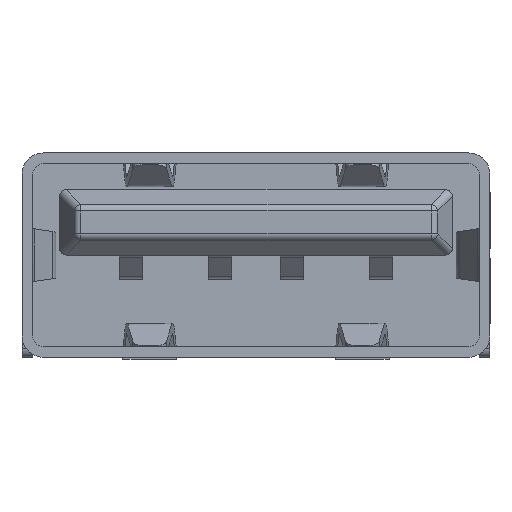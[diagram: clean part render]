
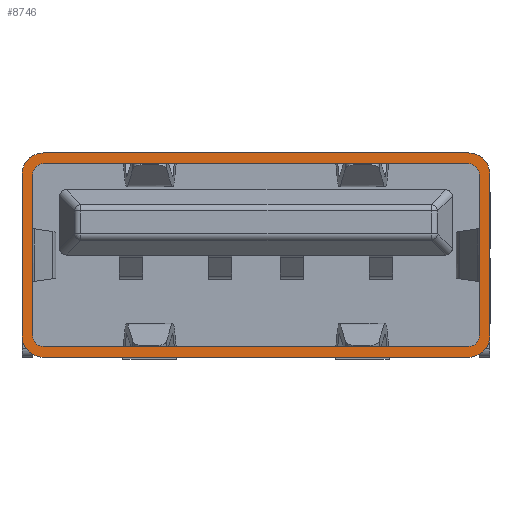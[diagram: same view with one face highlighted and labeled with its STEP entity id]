
A CAD part, front view. The second image highlights one B-rep face of the part: STEP entity #8746.
In plain terms, the highlighted planar face has unit normal (0, -1, 0).
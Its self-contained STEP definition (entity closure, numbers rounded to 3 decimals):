
#178 = CARTESIAN_POINT ( 'NONE',  ( -5.95, -14., 2.56 ) ) ;
#256 = AXIS2_PLACEMENT_3D ( 'NONE', #1958, #4878, #7438 ) ;
#524 = CARTESIAN_POINT ( 'NONE',  ( -6.55, -14., -2.26 ) ) ;
#1079 = VERTEX_POINT ( 'NONE', #21719 ) ;
#1958 = CARTESIAN_POINT ( 'NONE',  ( 5.95, -14., 2.26 ) ) ;
#2246 = CARTESIAN_POINT ( 'NONE',  ( -5.95, -14., 2.86 ) ) ;
#2357 = VECTOR ( 'NONE', #30650, 1000. ) ;
#2495 = CARTESIAN_POINT ( 'NONE',  ( 5.95, -14., -2.26 ) ) ;
#3346 = CIRCLE ( 'NONE', #22526, 0.6 ) ;
#3502 = ORIENTED_EDGE ( 'NONE', *, *, #20817, .F. ) ;
#3513 = DIRECTION ( 'NONE',  ( 0., 0., -1. ) ) ;
#4537 = VECTOR ( 'NONE', #19632, 1000. ) ;
#4565 = EDGE_CURVE ( 'NONE', #1079, #11951, #27170, .T. ) ;
#4619 = ORIENTED_EDGE ( 'NONE', *, *, #8394, .F. ) ;
#4878 = DIRECTION ( 'NONE',  ( 0., 1., 0. ) ) ;
#4960 = ORIENTED_EDGE ( 'NONE', *, *, #24312, .F. ) ;
#5975 = CARTESIAN_POINT ( 'NONE',  ( -5.95, -14., 2.26 ) ) ;
#6005 = AXIS2_PLACEMENT_3D ( 'NONE', #14067, #28450, #3513 ) ;
#6700 = CARTESIAN_POINT ( 'NONE',  ( 6.55, -14., 2.26 ) ) ;
#6813 = VERTEX_POINT ( 'NONE', #7803 ) ;
#7229 = VERTEX_POINT ( 'NONE', #34223 ) ;
#7438 = DIRECTION ( 'NONE',  ( 0., 0., 1. ) ) ;
#7775 = DIRECTION ( 'NONE',  ( 0., 1., 0. ) ) ;
#7803 = CARTESIAN_POINT ( 'NONE',  ( 6.55, -14., -2.26 ) ) ;
#7867 = CARTESIAN_POINT ( 'NONE',  ( -6.25, -14., 2.26 ) ) ;
#7989 = CARTESIAN_POINT ( 'NONE',  ( 5.95, -14., -2.26 ) ) ;
#8265 = CARTESIAN_POINT ( 'NONE',  ( 5.95, -14., 2.86 ) ) ;
#8394 = EDGE_CURVE ( 'NONE', #6813, #24839, #24276, .T. ) ;
#8464 = CARTESIAN_POINT ( 'NONE',  ( -5.95, -14., -2.56 ) ) ;
#8486 = AXIS2_PLACEMENT_3D ( 'NONE', #32669, #7775, #29968 ) ;
#8665 = CARTESIAN_POINT ( 'NONE',  ( 5.95, -14., 2.56 ) ) ;
#8746 = ADVANCED_FACE ( 'NONE', ( #25089, #27803 ), #30720, .T. ) ;
#9022 = VERTEX_POINT ( 'NONE', #8665 ) ;
#9064 = VECTOR ( 'NONE', #29714, 1000. ) ;
#9146 = ORIENTED_EDGE ( 'NONE', *, *, #13232, .T. ) ;
#9739 = VERTEX_POINT ( 'NONE', #33927 ) ;
#10237 = LINE ( 'NONE', #27020, #9064 ) ;
#10404 = AXIS2_PLACEMENT_3D ( 'NONE', #14336, #25488, #28916 ) ;
#10625 = CARTESIAN_POINT ( 'NONE',  ( 6.25, -14., -2.26 ) ) ;
#10751 = ORIENTED_EDGE ( 'NONE', *, *, #26662, .T. ) ;
#10944 = VERTEX_POINT ( 'NONE', #20850 ) ;
#11297 = LINE ( 'NONE', #178, #4537 ) ;
#11812 = VECTOR ( 'NONE', #18524, 1000. ) ;
#11951 = VERTEX_POINT ( 'NONE', #12962 ) ;
#12139 = LINE ( 'NONE', #6700, #23167 ) ;
#12714 = AXIS2_PLACEMENT_3D ( 'NONE', #18555, #32564, #29682 ) ;
#12897 = EDGE_CURVE ( 'NONE', #13879, #16495, #22956, .T. ) ;
#12962 = CARTESIAN_POINT ( 'NONE',  ( -6.25, -14., 2.26 ) ) ;
#12966 = EDGE_CURVE ( 'NONE', #9739, #1079, #33034, .T. ) ;
#12974 = ORIENTED_EDGE ( 'NONE', *, *, #28377, .T. ) ;
#12984 = ORIENTED_EDGE ( 'NONE', *, *, #4565, .T. ) ;
#13008 = LINE ( 'NONE', #13367, #34151 ) ;
#13232 = EDGE_CURVE ( 'NONE', #34044, #7229, #32474, .T. ) ;
#13367 = CARTESIAN_POINT ( 'NONE',  ( -5.95, -14., -2.86 ) ) ;
#13879 = VERTEX_POINT ( 'NONE', #524 ) ;
#14067 = CARTESIAN_POINT ( 'NONE',  ( -5.95, -14., 2.26 ) ) ;
#14336 = CARTESIAN_POINT ( 'NONE',  ( 5.95, -14., -2.26 ) ) ;
#14707 = EDGE_CURVE ( 'NONE', #7229, #9739, #35541, .T. ) ;
#15480 = DIRECTION ( 'NONE',  ( 0., 0., -1. ) ) ;
#15498 = AXIS2_PLACEMENT_3D ( 'NONE', #7989, #27478, #16507 ) ;
#16495 = VERTEX_POINT ( 'NONE', #32831 ) ;
#16507 = DIRECTION ( 'NONE',  ( 0., 0., -1. ) ) ;
#17031 = DIRECTION ( 'NONE',  ( 0., 1., 0. ) ) ;
#17848 = CARTESIAN_POINT ( 'NONE',  ( 6.25, -14., 2.26 ) ) ;
#18348 = LINE ( 'NONE', #29469, #11812 ) ;
#18524 = DIRECTION ( 'NONE',  ( 0., 0., -1. ) ) ;
#18555 = CARTESIAN_POINT ( 'NONE',  ( -5.95, -14., -2.26 ) ) ;
#18839 = VERTEX_POINT ( 'NONE', #21185 ) ;
#19033 = ORIENTED_EDGE ( 'NONE', *, *, #23575, .F. ) ;
#19061 = EDGE_CURVE ( 'NONE', #16495, #35067, #35003, .T. ) ;
#19205 = ORIENTED_EDGE ( 'NONE', *, *, #14707, .T. ) ;
#19215 = DIRECTION ( 'NONE',  ( 0., 0., -1. ) ) ;
#19219 = VECTOR ( 'NONE', #33114, 1000. ) ;
#19396 = DIRECTION ( 'NONE',  ( 0., -1., 0. ) ) ;
#19632 = DIRECTION ( 'NONE',  ( 1., 0., 0. ) ) ;
#20642 = VERTEX_POINT ( 'NONE', #17848 ) ;
#20754 = DIRECTION ( 'NONE',  ( 0., 1., 0. ) ) ;
#20817 = EDGE_CURVE ( 'NONE', #35067, #29586, #10237, .T. ) ;
#20850 = CARTESIAN_POINT ( 'NONE',  ( -5.95, -14., 2.56 ) ) ;
#20872 = ORIENTED_EDGE ( 'NONE', *, *, #12897, .F. ) ;
#21185 = CARTESIAN_POINT ( 'NONE',  ( -5.95, -14., -2.86 ) ) ;
#21719 = CARTESIAN_POINT ( 'NONE',  ( -6.25, -14., -2.26 ) ) ;
#21750 = CIRCLE ( 'NONE', #256, 0.3 ) ;
#22526 = AXIS2_PLACEMENT_3D ( 'NONE', #27913, #20754, #15480 ) ;
#22956 = LINE ( 'NONE', #23136, #32454 ) ;
#23136 = CARTESIAN_POINT ( 'NONE',  ( -6.55, -14., 2.26 ) ) ;
#23167 = VECTOR ( 'NONE', #26017, 1000. ) ;
#23361 = CIRCLE ( 'NONE', #28587, 0.3 ) ;
#23575 = EDGE_CURVE ( 'NONE', #24839, #18839, #13008, .T. ) ;
#24177 = CIRCLE ( 'NONE', #8486, 0.6 ) ;
#24276 = CIRCLE ( 'NONE', #15498, 0.6 ) ;
#24312 = EDGE_CURVE ( 'NONE', #18839, #13879, #3346, .T. ) ;
#24642 = EDGE_CURVE ( 'NONE', #10944, #9022, #11297, .T. ) ;
#24839 = VERTEX_POINT ( 'NONE', #32373 ) ;
#25089 = FACE_BOUND ( 'NONE', #33606, .T. ) ;
#25131 = EDGE_CURVE ( 'NONE', #32985, #6813, #12139, .T. ) ;
#25488 = DIRECTION ( 'NONE',  ( 0., 1., 0. ) ) ;
#25857 = EDGE_CURVE ( 'NONE', #29586, #32985, #24177, .T. ) ;
#26017 = DIRECTION ( 'NONE',  ( 0., 0., -1. ) ) ;
#26662 = EDGE_CURVE ( 'NONE', #11951, #10944, #23361, .T. ) ;
#27020 = CARTESIAN_POINT ( 'NONE',  ( -5.95, -14., 2.86 ) ) ;
#27067 = ORIENTED_EDGE ( 'NONE', *, *, #27339, .T. ) ;
#27170 = LINE ( 'NONE', #7867, #19219 ) ;
#27339 = EDGE_CURVE ( 'NONE', #20642, #34044, #18348, .T. ) ;
#27478 = DIRECTION ( 'NONE',  ( 0., 1., 0. ) ) ;
#27803 = FACE_OUTER_BOUND ( 'NONE', #30447, .T. ) ;
#27913 = CARTESIAN_POINT ( 'NONE',  ( -5.95, -14., -2.26 ) ) ;
#28166 = DIRECTION ( 'NONE',  ( 0., 0., -1. ) ) ;
#28377 = EDGE_CURVE ( 'NONE', #9022, #20642, #21750, .T. ) ;
#28450 = DIRECTION ( 'NONE',  ( 0., 1., 0. ) ) ;
#28587 = AXIS2_PLACEMENT_3D ( 'NONE', #5975, #17031, #28166 ) ;
#28916 = DIRECTION ( 'NONE',  ( 0., 0., -1. ) ) ;
#29026 = ORIENTED_EDGE ( 'NONE', *, *, #25131, .F. ) ;
#29389 = ORIENTED_EDGE ( 'NONE', *, *, #24642, .T. ) ;
#29469 = CARTESIAN_POINT ( 'NONE',  ( 6.25, -14., 2.26 ) ) ;
#29586 = VERTEX_POINT ( 'NONE', #8265 ) ;
#29682 = DIRECTION ( 'NONE',  ( 0., 0., -1. ) ) ;
#29714 = DIRECTION ( 'NONE',  ( 1., 0., 0. ) ) ;
#29968 = DIRECTION ( 'NONE',  ( 0., 0., 1. ) ) ;
#30057 = ORIENTED_EDGE ( 'NONE', *, *, #19061, .F. ) ;
#30447 = EDGE_LOOP ( 'NONE', ( #30057, #20872, #4960, #19033, #4619, #29026, #35834, #3502 ) ) ;
#30650 = DIRECTION ( 'NONE',  ( -1., 0., 0. ) ) ;
#30720 = PLANE ( 'NONE',  #31856 ) ;
#31459 = ORIENTED_EDGE ( 'NONE', *, *, #12966, .T. ) ;
#31856 = AXIS2_PLACEMENT_3D ( 'NONE', #2495, #19396, #19215 ) ;
#32373 = CARTESIAN_POINT ( 'NONE',  ( 5.95, -14., -2.86 ) ) ;
#32454 = VECTOR ( 'NONE', #34039, 1000. ) ;
#32474 = CIRCLE ( 'NONE', #10404, 0.3 ) ;
#32564 = DIRECTION ( 'NONE',  ( 0., 1., 0. ) ) ;
#32669 = CARTESIAN_POINT ( 'NONE',  ( 5.95, -14., 2.26 ) ) ;
#32831 = CARTESIAN_POINT ( 'NONE',  ( -6.55, -14., 2.26 ) ) ;
#32835 = CARTESIAN_POINT ( 'NONE',  ( 6.55, -14., 2.26 ) ) ;
#32985 = VERTEX_POINT ( 'NONE', #32835 ) ;
#33034 = CIRCLE ( 'NONE', #12714, 0.3 ) ;
#33114 = DIRECTION ( 'NONE',  ( 0., 0., 1. ) ) ;
#33606 = EDGE_LOOP ( 'NONE', ( #29389, #12974, #27067, #9146, #19205, #31459, #12984, #10751 ) ) ;
#33927 = CARTESIAN_POINT ( 'NONE',  ( -5.95, -14., -2.56 ) ) ;
#34039 = DIRECTION ( 'NONE',  ( 0., 0., 1. ) ) ;
#34044 = VERTEX_POINT ( 'NONE', #10625 ) ;
#34151 = VECTOR ( 'NONE', #35555, 1000. ) ;
#34223 = CARTESIAN_POINT ( 'NONE',  ( 5.95, -14., -2.56 ) ) ;
#35003 = CIRCLE ( 'NONE', #6005, 0.6 ) ;
#35067 = VERTEX_POINT ( 'NONE', #2246 ) ;
#35541 = LINE ( 'NONE', #8464, #2357 ) ;
#35555 = DIRECTION ( 'NONE',  ( -1., 0., 0. ) ) ;
#35834 = ORIENTED_EDGE ( 'NONE', *, *, #25857, .F. ) ;
